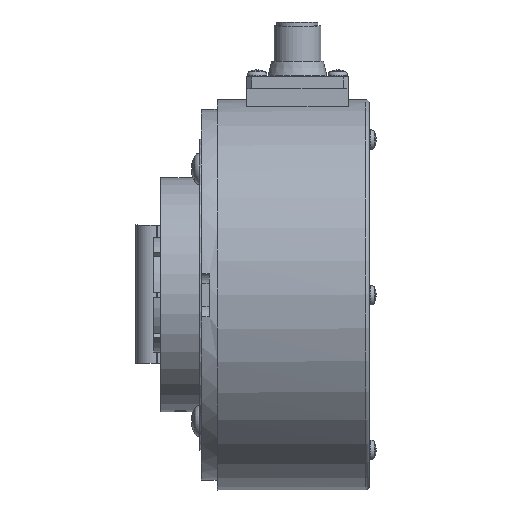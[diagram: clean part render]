
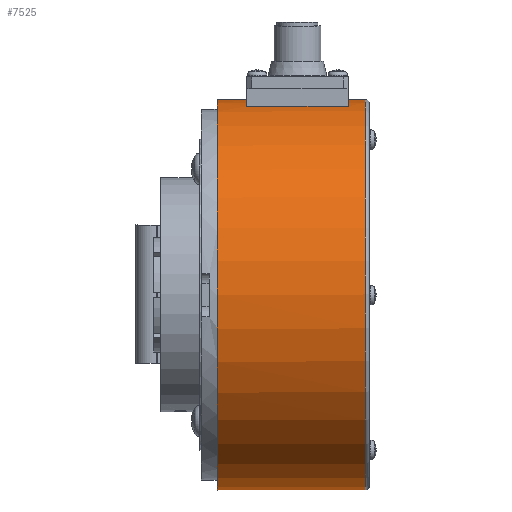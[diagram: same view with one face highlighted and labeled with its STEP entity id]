
A CAD part, top view. The second image highlights one B-rep face of the part: STEP entity #7525.
In plain terms, the highlighted cylindrical face has radius 50 mm (diameter 100 mm), a full revolution.
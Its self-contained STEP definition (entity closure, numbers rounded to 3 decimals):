
#7458=CARTESIAN_POINT('',(69.075,50.,0.0));
#7459=VERTEX_POINT('',#7458);
#7460=CARTESIAN_POINT('',(69.075,0.,0.0));
#7461=DIRECTION('',(1.0,0.0,0.0));
#7462=DIRECTION('',(0.0,1.0,0.0));
#7463=AXIS2_PLACEMENT_3D('',#7460,#7461,#7462);
#7464=CIRCLE('',#7463,50.);
#7465=EDGE_CURVE('',#7459,#7459,#7464,.T.);
#7470=CARTESIAN_POINT('',(51.071,0.,0.0));
#7471=DIRECTION('',(1.0,0.,0.0));
#7472=DIRECTION('',(0.0,1.0,0.0));
#7473=AXIS2_PLACEMENT_3D('',#7470,#7471,#7472);
#7474=CYLINDRICAL_SURFACE('',#7473,50.);
#7475=CARTESIAN_POINT('',(31.067,49.999,0.234));
#7476=VERTEX_POINT('',#7475);
#7477=CARTESIAN_POINT('',(31.067,0.,0.));
#7478=DIRECTION('',(1.,0.,0.));
#7479=DIRECTION('',(0.,1.,0.005));
#7480=AXIS2_PLACEMENT_3D('',#7477,#7478,#7479);
#7481=CIRCLE('',#7480,50.);
#7482=EDGE_CURVE('',#7476,#7476,#7481,.T.);
#7483=ORIENTED_EDGE('',*,*,#7482,.T.);
#7484=EDGE_LOOP('',(#7483));
#7485=FACE_OUTER_BOUND('',#7484,.T.);
#7486=CARTESIAN_POINT('',(38.655,48.406,-12.523));
#7487=VERTEX_POINT('',#7486);
#7488=CARTESIAN_POINT('',(64.655,48.406,-12.523));
#7489=VERTEX_POINT('',#7488);
#7490=CARTESIAN_POINT('',(38.655,48.406,-12.523));
#7491=DIRECTION('',(1.0,0.0,0.0));
#7492=VECTOR('',#7491,26.);
#7493=LINE('',#7490,#7492);
#7494=EDGE_CURVE('',#7487,#7489,#7493,.T.);
#7495=ORIENTED_EDGE('',*,*,#7494,.T.);
#7496=CARTESIAN_POINT('',(64.655,48.287,12.976));
#7497=VERTEX_POINT('',#7496);
#7498=CARTESIAN_POINT('',(64.655,0.,0.0));
#7499=DIRECTION('',(1.0,0.0,0.0));
#7500=DIRECTION('',(0.0,1.0,0.0));
#7501=AXIS2_PLACEMENT_3D('',#7498,#7499,#7500);
#7502=CIRCLE('',#7501,50.);
#7503=EDGE_CURVE('',#7489,#7497,#7502,.T.);
#7504=ORIENTED_EDGE('',*,*,#7503,.T.);
#7505=CARTESIAN_POINT('',(38.655,48.287,12.976));
#7506=VERTEX_POINT('',#7505);
#7507=CARTESIAN_POINT('',(64.655,48.287,12.976));
#7508=DIRECTION('',(-1.0,0.0,0.0));
#7509=VECTOR('',#7508,26.);
#7510=LINE('',#7507,#7509);
#7511=EDGE_CURVE('',#7497,#7506,#7510,.T.);
#7512=ORIENTED_EDGE('',*,*,#7511,.T.);
#7513=CARTESIAN_POINT('',(38.655,0.,0.0));
#7514=DIRECTION('',(-1.0,0.0,0.0));
#7515=DIRECTION('',(0.0,1.0,0.0));
#7516=AXIS2_PLACEMENT_3D('',#7513,#7514,#7515);
#7517=CIRCLE('',#7516,50.);
#7518=EDGE_CURVE('',#7506,#7487,#7517,.T.);
#7519=ORIENTED_EDGE('',*,*,#7518,.T.);
#7520=EDGE_LOOP('',(#7495,#7504,#7512,#7519));
#7521=FACE_BOUND('',#7520,.T.);
#7522=ORIENTED_EDGE('',*,*,#7465,.F.);
#7523=EDGE_LOOP('',(#7522));
#7524=FACE_BOUND('',#7523,.T.);
#7525=ADVANCED_FACE('',(#7485,#7521,#7524),#7474,.T.);
